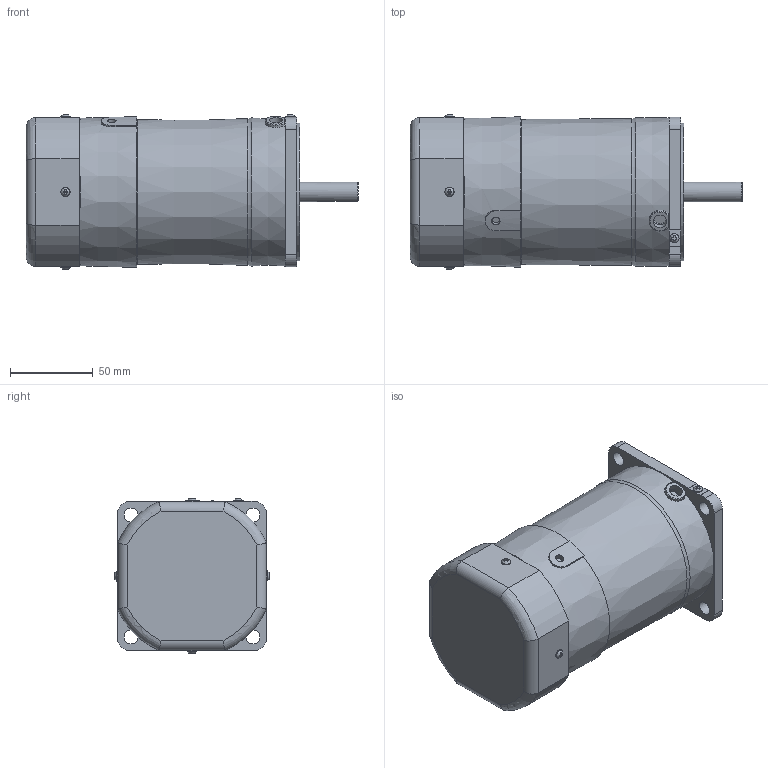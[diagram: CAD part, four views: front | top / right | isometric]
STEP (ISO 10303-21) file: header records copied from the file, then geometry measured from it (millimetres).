
FILE_DESCRIPTION(/* description */ (''),/* implementation_level */ '2;1');
FILE_NAME(/* name */ 'E:\도면작업\2016\0704) 미주향 SG 도면\3D MOTOR\ELECTROMAGNETIC BRAKE\SG9R(I)60K_-E.stp',/* time_stamp */ '2017-03-21T15:10:19+09:00',/* author */ ('jy-jung'),/* organization */ (''),/* preprocessor_version */ 'ST-DEVELOPER v15.6',/* originating_system */ 'Autodesk Inventor 2015',/* authorisation */ '');
FILE_SCHEMA (('AUTOMOTIVE_DESIGN { 1 0 10303 214 3 1 1 }'));
Length unit declared in the file: millimetre
Products named in the file (1): 부품23
Bounding box: 200.3 x 93.89 x 93.89 mm (x, y, z)
Volume: 1049807.7 mm3; surface area: 70642.1 mm2
Topology: 1 solids, 6 shells, 233 faces, 600 edges, 396 vertices
Faces by surface type: plane 149, cylinder 56, torus 14, cone 8, bspline 5, sphere 1
Full cylindrical faces by diameter (mm): 3 x4, 3.5 x4, 5 x1, 5.6 x5, 8 x1, 8.5 x4, 10 x1, 12 x1, 40 x1, 83 x1, 86 x1
Entity records: 7631 total; most frequent: CARTESIAN_POINT 1956, ORIENTED_EDGE 1094, DIRECTION 1053, EDGE_CURVE 547, VERTEX_POINT 384, AXIS2_PLACEMENT_3D 372, LINE 309, VECTOR 309
